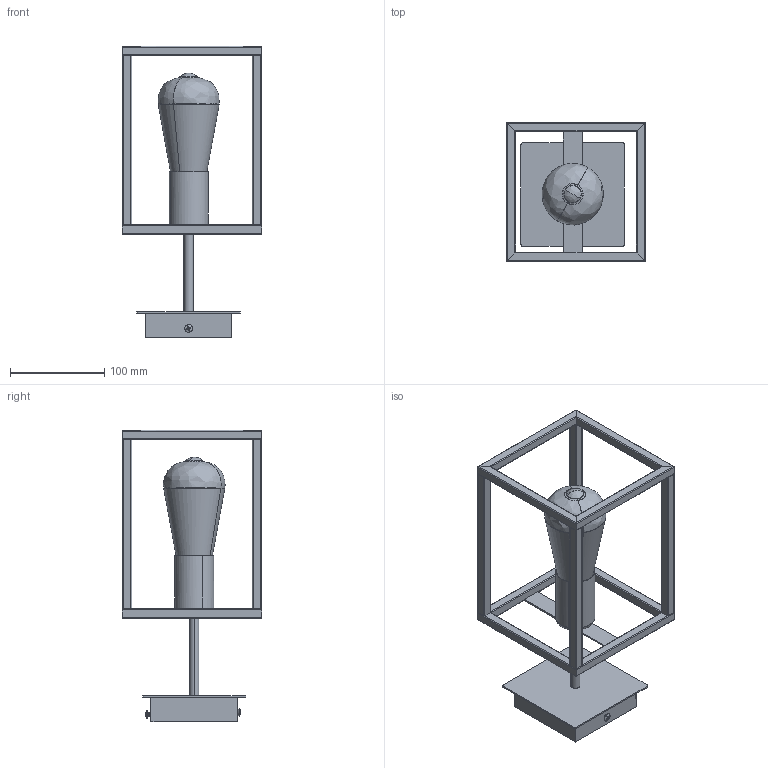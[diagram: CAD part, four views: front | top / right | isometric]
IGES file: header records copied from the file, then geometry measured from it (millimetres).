
Start section: SolidWorks IGES file using NURBS representation for surfaces
Global section: file name: Z:\Modele 3D_WWW\_KOLEKCJE_WWW\CRATE\9045\CRATE-9045.IGS; native system: SolidWorks 2021; preprocessor: SolidWorks 2021; author: gabriela.tworek; date: 210913.070507; units: millimetre
Bounding box: 148 x 148 x 310 mm (x, y, z)
Surface area: 194678.4 mm2 (no closed solid volume)
Topology: 0 solids, 0 shells, 457 faces, 5363 edges, 5350 vertices
Faces by surface type: bspline 457
